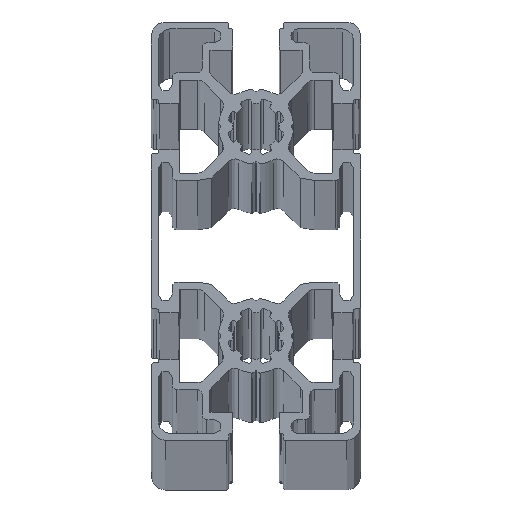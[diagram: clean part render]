
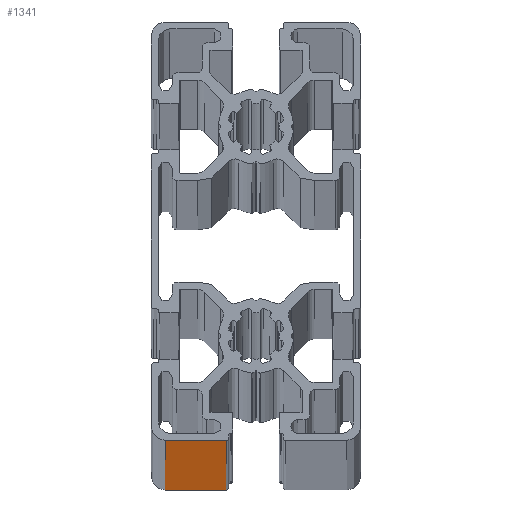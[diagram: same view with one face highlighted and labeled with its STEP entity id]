
A CAD part, top view. The second image highlights one B-rep face of the part: STEP entity #1341.
In plain terms, the highlighted planar face has unit normal (0, -1, 0).
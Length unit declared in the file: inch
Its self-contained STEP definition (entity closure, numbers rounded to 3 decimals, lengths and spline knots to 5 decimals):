
#1341 = ADVANCED_FACE ( 'NONE', ( #1736 ), #2414, .F. ) ;
#1736 = FACE_OUTER_BOUND ( 'NONE', #9185, .T. ) ;
#2412 = CARTESIAN_POINT ( 'NONE',  ( -0.25101, -2.65748, 120.07874 ) ) ;
#2414 = PLANE ( 'NONE',  #6390 ) ;
#2417 = DIRECTION ( 'NONE',  ( 0., 1., 0. ) ) ;
#2418 = DIRECTION ( 'NONE',  ( 0., 0., 1. ) ) ;
#2884 = CARTESIAN_POINT ( 'NONE',  ( -0.76772, -2.65748, 120.07874 ) ) ;
#2911 = CARTESIAN_POINT ( 'NONE',  ( -0.25101, -2.65748, -120.07874 ) ) ;
#2988 = CARTESIAN_POINT ( 'NONE',  ( -0.25101, -2.65748, 120.07874 ) ) ;
#3228 = CARTESIAN_POINT ( 'NONE',  ( -0.76772, -2.65748, -120.07874 ) ) ;
#3759 = VECTOR ( 'NONE', #5110, 39.37008 ) ;
#3760 = LINE ( 'NONE', #5109, #3759 ) ;
#3762 = LINE ( 'NONE', #5118, #3763 ) ;
#3763 = VECTOR ( 'NONE', #5119, 39.37008 ) ;
#3774 = LINE ( 'NONE', #5117, #3778 ) ;
#3776 = LINE ( 'NONE', #5125, #3777 ) ;
#3777 = VECTOR ( 'NONE', #5126, 39.37008 ) ;
#3778 = VECTOR ( 'NONE', #5128, 39.37008 ) ;
#5109 = CARTESIAN_POINT ( 'NONE',  ( -0.25101, -2.65748, 120.07874 ) ) ;
#5110 = DIRECTION ( 'NONE',  ( 1., 0., 0. ) ) ;
#5117 = CARTESIAN_POINT ( 'NONE',  ( -0.25101, -2.65748, -120.07874 ) ) ;
#5118 = CARTESIAN_POINT ( 'NONE',  ( -0.76772, -2.65748, 120.07874 ) ) ;
#5119 = DIRECTION ( 'NONE',  ( 0., 0., -1. ) ) ;
#5125 = CARTESIAN_POINT ( 'NONE',  ( -0.25101, -2.65748, 120.07874 ) ) ;
#5126 = DIRECTION ( 'NONE',  ( 0., 0., -1. ) ) ;
#5128 = DIRECTION ( 'NONE',  ( 1., 0., 0. ) ) ;
#5575 = VERTEX_POINT ( 'NONE', #2884 ) ;
#5636 = VERTEX_POINT ( 'NONE', #2911 ) ;
#5778 = VERTEX_POINT ( 'NONE', #2988 ) ;
#6018 = VERTEX_POINT ( 'NONE', #3228 ) ;
#6390 = AXIS2_PLACEMENT_3D ( 'NONE', #2412, #2417, #2418 ) ;
#6825 = EDGE_CURVE ( 'NONE', #5575, #5778, #3760, .T. ) ;
#6829 = EDGE_CURVE ( 'NONE', #5575, #6018, #3762, .T. ) ;
#6832 = EDGE_CURVE ( 'NONE', #5778, #5636, #3776, .T. ) ;
#6833 = EDGE_CURVE ( 'NONE', #6018, #5636, #3774, .T. ) ;
#9185 = EDGE_LOOP ( 'NONE', ( #13576, #13577, #13578, #13579 ) ) ;
#13576 = ORIENTED_EDGE ( 'NONE', *, *, #6833, .T. ) ;
#13577 = ORIENTED_EDGE ( 'NONE', *, *, #6832, .F. ) ;
#13578 = ORIENTED_EDGE ( 'NONE', *, *, #6825, .F. ) ;
#13579 = ORIENTED_EDGE ( 'NONE', *, *, #6829, .T. ) ;
